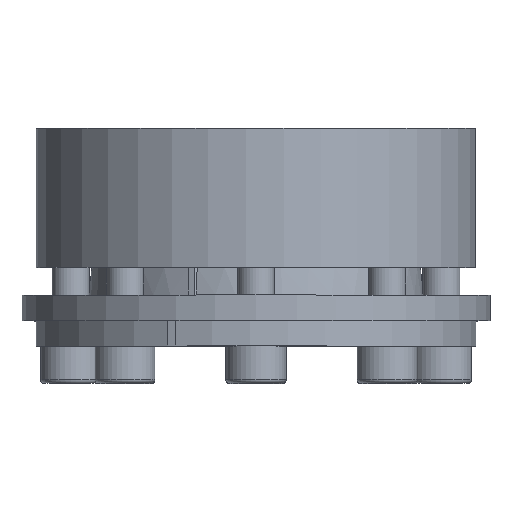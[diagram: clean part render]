
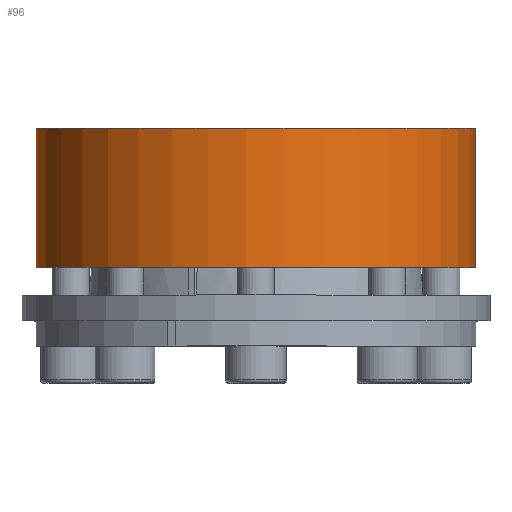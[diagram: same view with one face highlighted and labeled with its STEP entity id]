
A CAD part, top view. The second image highlights one B-rep face of the part: STEP entity #96.
In plain terms, the highlighted cylindrical face has radius 47.5 mm (diameter 95 mm), a partial arc.
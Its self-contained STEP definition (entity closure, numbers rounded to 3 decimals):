
#96 = ADVANCED_FACE( '', ( #220 ), #221, .T. );
#220 = FACE_OUTER_BOUND( '', #416, .T. );
#221 = CYLINDRICAL_SURFACE( '', #417, 47.5 );
#416 = EDGE_LOOP( '', ( #671, #672, #673, #674 ) );
#417 = AXIS2_PLACEMENT_3D( '', #675, #676, #677 );
#671 = ORIENTED_EDGE( '', *, *, #1071, .F. );
#672 = ORIENTED_EDGE( '', *, *, #1072, .T. );
#673 = ORIENTED_EDGE( '', *, *, #1073, .T. );
#674 = ORIENTED_EDGE( '', *, *, #1074, .F. );
#675 = CARTESIAN_POINT( '', ( 0., -60., 0. ) );
#676 = DIRECTION( '', ( 0., 1., 0. ) );
#677 = DIRECTION( '', ( 0., 0., -1. ) );
#1071 = EDGE_CURVE( '', #1298, #1299, #1300, .T. );
#1072 = EDGE_CURVE( '', #1298, #1301, #1302, .F. );
#1073 = EDGE_CURVE( '', #1301, #1303, #1304, .T. );
#1074 = EDGE_CURVE( '', #1299, #1303, #1305, .F. );
#1298 = VERTEX_POINT( '', #1662 );
#1299 = VERTEX_POINT( '', #1663 );
#1300 = CIRCLE( '', #1664, 47.5 );
#1301 = VERTEX_POINT( '', #1665 );
#1302 = LINE( '', #1666, #1667 );
#1303 = VERTEX_POINT( '', #1668 );
#1304 = CIRCLE( '', #1669, 47.5 );
#1305 = LINE( '', #1670, #1671 );
#1662 = CARTESIAN_POINT( '', ( 19.052, 17., -43.512 ) );
#1663 = CARTESIAN_POINT( '', ( 17.296, 17., -44.239 ) );
#1664 = AXIS2_PLACEMENT_3D( '', #1979, #1980, #1981 );
#1665 = CARTESIAN_POINT( '', ( 19.052, 47., -43.512 ) );
#1666 = CARTESIAN_POINT( '', ( 19.052, -60., -43.512 ) );
#1667 = VECTOR( '', #1982, 1000. );
#1668 = CARTESIAN_POINT( '', ( 17.296, 47., -44.239 ) );
#1669 = AXIS2_PLACEMENT_3D( '', #1983, #1984, #1985 );
#1670 = CARTESIAN_POINT( '', ( 17.296, -60., -44.239 ) );
#1671 = VECTOR( '', #1986, 1000. );
#1979 = CARTESIAN_POINT( '', ( 0., 17., 0. ) );
#1980 = DIRECTION( '', ( 0., -1., 0. ) );
#1981 = DIRECTION( '', ( 0., 0., -1. ) );
#1982 = DIRECTION( '', ( 0., -1., 0. ) );
#1983 = CARTESIAN_POINT( '', ( 0., 47., 0. ) );
#1984 = DIRECTION( '', ( 0., -1., 0. ) );
#1985 = DIRECTION( '', ( 0., 0., -1. ) );
#1986 = DIRECTION( '', ( 0., -1., 0. ) );
